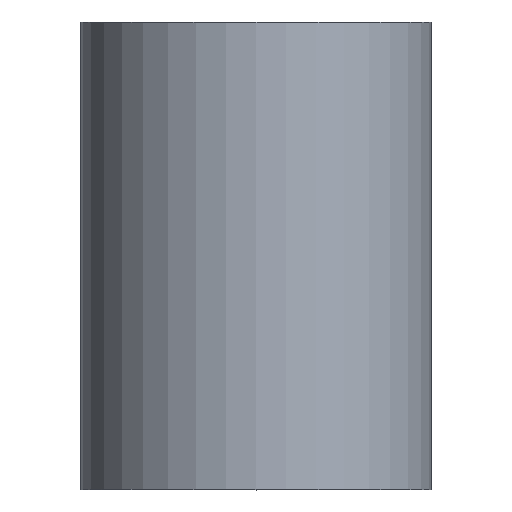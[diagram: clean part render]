
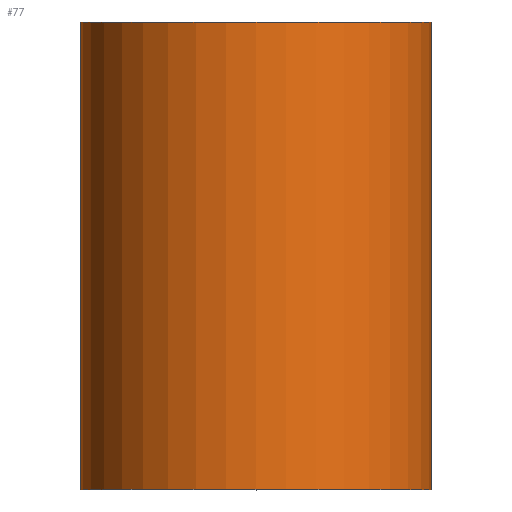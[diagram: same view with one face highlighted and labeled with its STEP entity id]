
A CAD part, top view. The second image highlights one B-rep face of the part: STEP entity #77.
In plain terms, the highlighted cylindrical face has radius 3 mm (diameter 6 mm), a partial arc.
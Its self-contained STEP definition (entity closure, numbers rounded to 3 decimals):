
#9 = DIRECTION ( 'NONE',  ( -1., 0., 0. ) ) ;
#15 = CARTESIAN_POINT ( 'NONE',  ( 3., 8., 0. ) ) ;
#22 = LINE ( 'NONE', #148, #67 ) ;
#26 = DIRECTION ( 'NONE',  ( -1., 0., 0. ) ) ;
#34 = VERTEX_POINT ( 'NONE', #106 ) ;
#41 = EDGE_CURVE ( 'NONE', #34, #169, #296, .T. ) ;
#58 = VECTOR ( 'NONE', #278, 1000. ) ;
#61 = ORIENTED_EDGE ( 'NONE', *, *, #41, .T. ) ;
#67 = VECTOR ( 'NONE', #264, 1000. ) ;
#68 = CARTESIAN_POINT ( 'NONE',  ( -3., 0., 0. ) ) ;
#77 = ADVANCED_FACE ( 'NONE', ( #172 ), #238, .T. ) ;
#80 = VERTEX_POINT ( 'NONE', #110 ) ;
#84 = LINE ( 'NONE', #68, #58 ) ;
#97 = CARTESIAN_POINT ( 'NONE',  ( 0., 8., 0. ) ) ;
#101 = EDGE_CURVE ( 'NONE', #34, #80, #84, .T. ) ;
#102 = ORIENTED_EDGE ( 'NONE', *, *, #250, .T. ) ;
#106 = CARTESIAN_POINT ( 'NONE',  ( -3., 0., 0. ) ) ;
#110 = CARTESIAN_POINT ( 'NONE',  ( -3., 8., 0. ) ) ;
#122 = DIRECTION ( 'NONE',  ( -1., 0., 0. ) ) ;
#135 = AXIS2_PLACEMENT_3D ( 'NONE', #97, #239, #122 ) ;
#148 = CARTESIAN_POINT ( 'NONE',  ( 3., 0., 0. ) ) ;
#152 = AXIS2_PLACEMENT_3D ( 'NONE', #159, #235, #9 ) ;
#159 = CARTESIAN_POINT ( 'NONE',  ( 0., 0., 0. ) ) ;
#161 = DIRECTION ( 'NONE',  ( 0., 1., 0. ) ) ;
#169 = VERTEX_POINT ( 'NONE', #229 ) ;
#172 = FACE_OUTER_BOUND ( 'NONE', #267, .T. ) ;
#219 = ORIENTED_EDGE ( 'NONE', *, *, #101, .F. ) ;
#229 = CARTESIAN_POINT ( 'NONE',  ( 3., 0., 0. ) ) ;
#232 = ORIENTED_EDGE ( 'NONE', *, *, #266, .F. ) ;
#235 = DIRECTION ( 'NONE',  ( 0., 1., 0. ) ) ;
#238 = CYLINDRICAL_SURFACE ( 'NONE', #284, 3. ) ;
#239 = DIRECTION ( 'NONE',  ( 0., 1., 0. ) ) ;
#243 = VERTEX_POINT ( 'NONE', #15 ) ;
#250 = EDGE_CURVE ( 'NONE', #169, #243, #22, .T. ) ;
#252 = CIRCLE ( 'NONE', #135, 3. ) ;
#257 = CARTESIAN_POINT ( 'NONE',  ( 0., 0., 0. ) ) ;
#264 = DIRECTION ( 'NONE',  ( 0., 1., 0. ) ) ;
#266 = EDGE_CURVE ( 'NONE', #80, #243, #252, .T. ) ;
#267 = EDGE_LOOP ( 'NONE', ( #61, #102, #232, #219 ) ) ;
#278 = DIRECTION ( 'NONE',  ( 0., 1., 0. ) ) ;
#284 = AXIS2_PLACEMENT_3D ( 'NONE', #257, #161, #26 ) ;
#296 = CIRCLE ( 'NONE', #152, 3. ) ;
